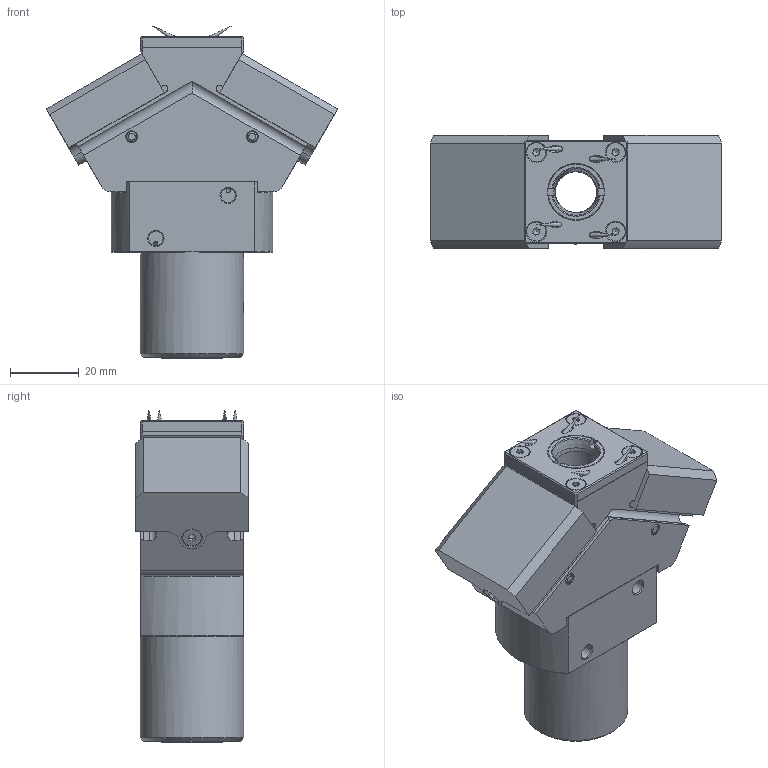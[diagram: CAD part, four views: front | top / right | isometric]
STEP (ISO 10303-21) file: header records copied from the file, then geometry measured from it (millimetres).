
FILE_DESCRIPTION(/* description */ (''),/* implementation_level */ '2;1');
FILE_NAME(/* name */ 'GN3003-4-1',/* time_stamp */ '2022-05-28T15:45:10+08:00',/* author */ (''),/* organization */ (''),/* preprocessor_version */ 'ST-DEVELOPER v9',/* originating_system */ 'UGS - NX 4.0',/* authorisation */ '');
FILE_SCHEMA (('AUTOMOTIVE_DESIGN { 1 0 10303 214 1 1 1 1 }'));
Length unit declared in the file: millimetre
Products named in the file (1): AdmiC102l0lf
Bounding box: 84.53 x 33 x 96.37 mm (x, y, z)
Volume: 99923.6 mm3; surface area: 34551.2 mm2
Topology: 1 solids, 14 shells, 510 faces, 1258 edges, 802 vertices
Faces by surface type: plane 316, cylinder 113, cone 65, torus 10, extrusion 4, bspline 2
Full cylindrical faces by diameter (mm): 1.2 x2, 1.8 x1, 2 x3, 2.05 x4, 2.1 x3, 2.5 x8, 2.9 x4, 3 x6, 3.1 x2, 3.3 x3, 4.2 x2, 4.8 x4, 5.54 x6, 12 x1, 14 x1, 16 x1, 16.5 x1, 18.5 x1, 22 x1, 30 x1
Entity records: 15312 total; most frequent: CARTESIAN_POINT 3894, DIRECTION 2388, ORIENTED_EDGE 2156, EDGE_CURVE 1078, AXIS2_PLACEMENT_3D 855, VERTEX_POINT 757, VECTOR 678, LINE 674
